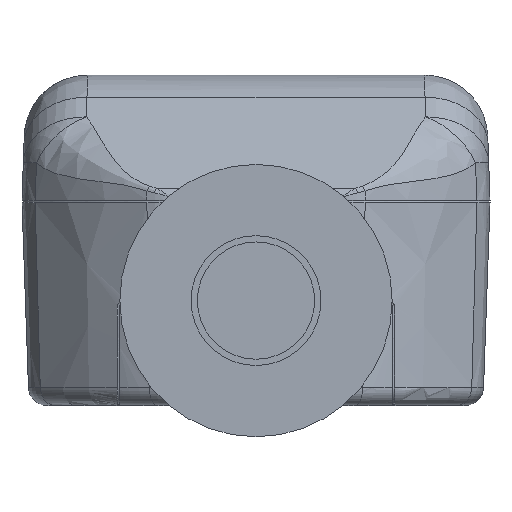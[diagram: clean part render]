
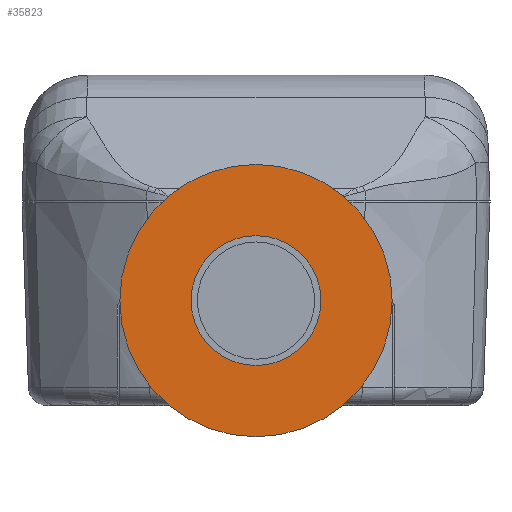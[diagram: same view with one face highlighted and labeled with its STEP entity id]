
A CAD part, front view. The second image highlights one B-rep face of the part: STEP entity #35823.
In plain terms, the highlighted planar face has unit normal (0, -1, 0).
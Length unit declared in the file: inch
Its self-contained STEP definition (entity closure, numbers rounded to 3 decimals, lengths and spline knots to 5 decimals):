
#5199 = EDGE_CURVE ( 'NONE', #79744, #79744, #96311, .T. ) ;
#7137 = AXIS2_PLACEMENT_3D ( 'NONE', #126896, #15252, #36335 ) ;
#12432 = CARTESIAN_POINT ( 'NONE',  ( 1.85625, -5.48551, -1.7874 ) ) ;
#15252 = DIRECTION ( 'NONE',  ( 0., -1., 0. ) ) ;
#19837 = CIRCLE ( 'NONE', #7137, 1.08 ) ;
#31068 = FACE_OUTER_BOUND ( 'NONE', #64020, .T. ) ;
#34325 = DIRECTION ( 'NONE',  ( 0., 0., 1. ) ) ;
#35823 = ADVANCED_FACE ( 'NONE', ( #69471, #31068 ), #110410, .F. ) ;
#36335 = DIRECTION ( 'NONE',  ( 0., 0., -1. ) ) ;
#45382 = AXIS2_PLACEMENT_3D ( 'NONE', #54177, #124841, #34325 ) ;
#49929 = CARTESIAN_POINT ( 'NONE',  ( 1.85625, -5.48551, -2.3024 ) ) ;
#54177 = CARTESIAN_POINT ( 'NONE',  ( 0.77625, -5.48551, -1.7874 ) ) ;
#64020 = EDGE_LOOP ( 'NONE', ( #127107 ) ) ;
#64586 = AXIS2_PLACEMENT_3D ( 'NONE', #12432, #103659, #72604 ) ;
#69471 = FACE_BOUND ( 'NONE', #79211, .T. ) ;
#72604 = DIRECTION ( 'NONE',  ( 0., 0., -1. ) ) ;
#79211 = EDGE_LOOP ( 'NONE', ( #86320 ) ) ;
#79744 = VERTEX_POINT ( 'NONE', #49929 ) ;
#86320 = ORIENTED_EDGE ( 'NONE', *, *, #5199, .F. ) ;
#96311 = CIRCLE ( 'NONE', #64586, 0.515 ) ;
#96892 = CARTESIAN_POINT ( 'NONE',  ( 1.85625, -5.48551, -2.8674 ) ) ;
#103659 = DIRECTION ( 'NONE',  ( 0., -1., 0. ) ) ;
#110410 = PLANE ( 'NONE',  #45382 ) ;
#111785 = EDGE_CURVE ( 'NONE', #117293, #117293, #19837, .T. ) ;
#117293 = VERTEX_POINT ( 'NONE', #96892 ) ;
#124841 = DIRECTION ( 'NONE',  ( 0., 1., 0. ) ) ;
#126896 = CARTESIAN_POINT ( 'NONE',  ( 1.85625, -5.48551, -1.7874 ) ) ;
#127107 = ORIENTED_EDGE ( 'NONE', *, *, #111785, .T. ) ;
